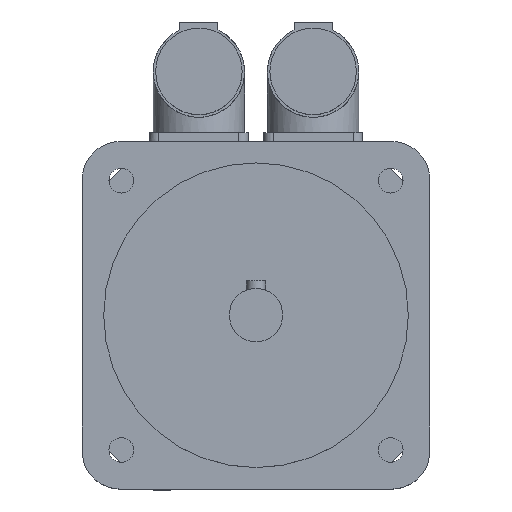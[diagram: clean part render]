
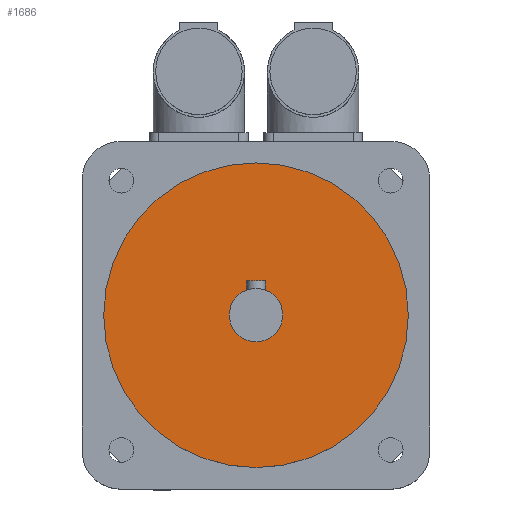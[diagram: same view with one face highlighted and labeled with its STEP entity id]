
A CAD part, top view. The second image highlights one B-rep face of the part: STEP entity #1686.
In plain terms, the highlighted planar face has unit normal (0, 0, 1).
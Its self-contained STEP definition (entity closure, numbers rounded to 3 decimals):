
#28=FACE_BOUND('',#305,.T.);
#53=CIRCLE('',#1788,7.);
#54=CIRCLE('',#1791,40.);
#202=FACE_OUTER_BOUND('',#304,.T.);
#304=EDGE_LOOP('',(#1158));
#305=EDGE_LOOP('',(#1159));
#718=VERTEX_POINT('',#2569);
#719=VERTEX_POINT('',#2573);
#892=EDGE_CURVE('',#718,#718,#53,.T.);
#893=EDGE_CURVE('',#719,#719,#54,.T.);
#1158=ORIENTED_EDGE('',*,*,#893,.T.);
#1159=ORIENTED_EDGE('',*,*,#892,.T.);
#1633=PLANE('',#1793);
#1686=ADVANCED_FACE('',(#202,#28),#1633,.T.);
#1788=AXIS2_PLACEMENT_3D('',#2570,#2000,#2001);
#1791=AXIS2_PLACEMENT_3D('',#2574,#2006,#2007);
#1793=AXIS2_PLACEMENT_3D('',#2577,#2010,#2011);
#2000=DIRECTION('center_axis',(0.,0.,-1.));
#2001=DIRECTION('ref_axis',(-1.,0.,0.));
#2006=DIRECTION('center_axis',(0.,0.,1.));
#2007=DIRECTION('ref_axis',(-1.,0.,0.));
#2010=DIRECTION('center_axis',(0.,0.,1.));
#2011=DIRECTION('ref_axis',(1.,0.,0.));
#2569=CARTESIAN_POINT('',(7.,0.,107.5));
#2570=CARTESIAN_POINT('Origin',(0.,0.,107.5));
#2573=CARTESIAN_POINT('',(40.,0.,107.5));
#2574=CARTESIAN_POINT('Origin',(0.,0.,107.5));
#2577=CARTESIAN_POINT('Origin',(0.,0.,
107.5));
